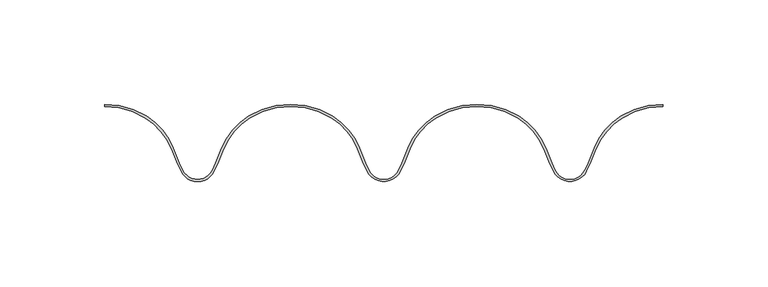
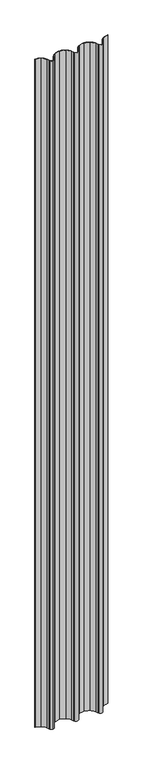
"""IFC4 building model written with IfcOpenShell, lengths in millimetres: plate geometry, Regolare Couverture 267  : Regolare Couverture 267 ."""

from ifc_helpers import new_model, si_unit, point, frame_2d, origin, origin_with_axes, place, context, project, spatial, polyline, circle_curve, trimmed, segment, composite_curve, outline, extrude, source, transform, mapped, element, save


def plate_7b1e3833(model_context):
    return source(origin(), model_context, "Body", "SweptSolid", [
        extrude(outline(composite_curve([segment(trimmed(circle_curve(frame_2d((-133.5772336, -1.5098563)), 37.4503244), [point((-114.0364835, 30.4383187))], [point((-133.5772336, 35.9404682))], True, "CARTESIAN"), True, "CONTINUOUS"), segment(polyline([(-133.5772336, 35.9404682), (-133.5772336, 36.9404682)]), True, "CONTINUOUS"), segment(trimmed(circle_curve(frame_2d((-133.5772336, -1.5098563)), 38.4503244), [point((-133.5772336, 36.9404682))], [point((-113.5147056, 31.2914001))], False, "CARTESIAN"), True, "CONTINUOUS"), segment(trimmed(circle_curve(frame_2d((-130.0115884, 4.3198001)), 31.6166783), [point((-113.5147056, 31.2914001))], [point((-100.6561042, 16.0616012))], False, "CARTESIAN"), True, "CONTINUOUS"), segment(polyline([(-100.6561042, 16.0616012), (-97.7868824, 8.8980757), (-96.1405287, 5.4633665)]), True, "CONTINUOUS"), segment(trimmed(circle_curve(frame_2d((-89.0514891, 8.8613445)), 7.8613445), [point((-96.1405287, 5.4633665))], [point((-89.0514891, 1.0))], True, "CARTESIAN"), True, "CONTINUOUS"), segment(trimmed(circle_curve(frame_2d((-89.0514891, 8.8613445)), 7.8613445), [point((-89.0514891, 1.0))], [point((-81.9624494, 5.4633665))], True, "CARTESIAN"), True, "CONTINUOUS"), segment(polyline([(-81.9624494, 5.4633665), (-80.3160957, 8.8980757), (-77.446874, 16.0616012)]), True, "CONTINUOUS"), segment(trimmed(circle_curve(frame_2d((-48.0913898, 4.3198001)), 31.6166783), [point((-77.446874, 16.0616012))], [point((-64.5882725, 31.2914001))], False, "CARTESIAN"), True, "CONTINUOUS"), segment(trimmed(circle_curve(frame_2d((-44.5257445, -1.5098563)), 38.4503244), [point((-64.5882725, 31.2914001))], [point((-44.5257445, 36.9404682))], False, "CARTESIAN"), True, "CONTINUOUS"), segment(trimmed(circle_curve(frame_2d((-44.5257445, -1.5098563)), 38.4503244), [point((-44.5257445, 36.9404682))], [point((-24.4632165, 31.2914001))], False, "CARTESIAN"), True, "CONTINUOUS"), segment(trimmed(circle_curve(frame_2d((-40.9600993, 4.3198001)), 31.6166783), [point((-24.4632165, 31.2914001))], [point((-11.6046151, 16.0616012))], False, "CARTESIAN"), True, "CONTINUOUS"), segment(polyline([(-11.6046151, 16.0616012), (-8.7353934, 8.8980757), (-7.0890396, 5.4633665)]), True, "CONTINUOUS"), segment(trimmed(circle_curve(frame_2d((0.0, 8.8613445)), 7.8613445), [point((-7.0890396, 5.4633665))], [point((7.0890396, 5.4633665))], True, "CARTESIAN"), True, "CONTINUOUS"), segment(polyline([(7.0890396, 5.4633665), (8.7353934, 8.8980757), (11.6046151, 16.0616012)]), True, "CONTINUOUS"), segment(trimmed(circle_curve(frame_2d((40.9600993, 4.3198001)), 31.6166783), [point((11.6046151, 16.0616012))], [point((24.4632165, 31.2914001))], False, "CARTESIAN"), True, "CONTINUOUS"), segment(trimmed(circle_curve(frame_2d((44.5257445, -1.5098563)), 38.4503244), [point((24.4632165, 31.2914001))], [point((44.5257445, 36.9404682))], False, "CARTESIAN"), True, "CONTINUOUS"), segment(trimmed(circle_curve(frame_2d((44.5257445, -1.5098563)), 38.4503244), [point((44.5257445, 36.9404682))], [point((64.5882725, 31.2914001))], False, "CARTESIAN"), True, "CONTINUOUS"), segment(trimmed(circle_curve(frame_2d((48.0913898, 4.3198001)), 31.6166783), [point((64.5882725, 31.2914001))], [point((77.446874, 16.0616012))], False, "CARTESIAN"), True, "CONTINUOUS"), segment(polyline([(77.446874, 16.0616012), (80.3160957, 8.8980757), (81.9624494, 5.4633665)]), True, "CONTINUOUS"), segment(trimmed(circle_curve(frame_2d((89.0514891, 8.8613445)), 7.8613445), [point((81.9624494, 5.4633665))], [point((96.1405287, 5.4633665))], True, "CARTESIAN"), True, "CONTINUOUS"), segment(polyline([(96.1405287, 5.4633665), (97.7868824, 8.8980757), (100.6561042, 16.0616012)]), True, "CONTINUOUS"), segment(trimmed(circle_curve(frame_2d((130.0115884, 4.3198001)), 31.6166783), [point((100.6561042, 16.0616012))], [point((113.5147056, 31.2914001))], False, "CARTESIAN"), True, "CONTINUOUS"), segment(trimmed(circle_curve(frame_2d((133.5772336, -1.5098563)), 38.4503244), [point((113.5147056, 31.2914001))], [point((133.5772336, 36.9404682))], False, "CARTESIAN"), True, "CONTINUOUS"), segment(polyline([(133.5772336, 36.9404682), (133.5772336, 35.9404682)]), True, "CONTINUOUS"), segment(trimmed(circle_curve(frame_2d((133.5772336, -1.5098563)), 37.4503244), [point((133.5772336, 35.9404682))], [point((114.0364835, 30.4383187))], True, "CARTESIAN"), True, "CONTINUOUS"), segment(trimmed(circle_curve(frame_2d((130.0115884, 4.3198001)), 30.6166783), [point((114.0364835, 30.4383187))], [point((101.5844985, 15.6900047))], True, "CARTESIAN"), True, "CONTINUOUS"), segment(polyline([(101.5844985, 15.6900047), (98.7029126, 8.4956098), (97.0422879, 5.0311277)]), True, "CONTINUOUS"), segment(trimmed(circle_curve(frame_2d((89.0514891, 8.8613445)), 8.8613445), [point((97.0422879, 5.0311277))], [point((81.0606903, 5.0311277))], False, "CARTESIAN"), True, "CONTINUOUS"), segment(polyline([(81.0606903, 5.0311277), (79.4000655, 8.4956098), (76.5184796, 15.6900047)]), True, "CONTINUOUS"), segment(trimmed(circle_curve(frame_2d((48.0913898, 4.3198001)), 30.6166783), [point((76.5184796, 15.6900047))], [point((64.0664947, 30.4383187))], True, "CARTESIAN"), True, "CONTINUOUS"), segment(trimmed(circle_curve(frame_2d((44.5257445, -1.5098563)), 37.4503244), [point((64.0664947, 30.4383187))], [point((44.5257445, 35.9404682))], True, "CARTESIAN"), True, "CONTINUOUS"), segment(trimmed(circle_curve(frame_2d((44.5257445, -1.5098563)), 37.4503244), [point((44.5257445, 35.9404682))], [point((24.9849944, 30.4383187))], True, "CARTESIAN"), True, "CONTINUOUS"), segment(trimmed(circle_curve(frame_2d((40.9600993, 4.3198001)), 30.6166783), [point((24.9849944, 30.4383187))], [point((12.5330095, 15.6900047))], True, "CARTESIAN"), True, "CONTINUOUS"), segment(polyline([(12.5330095, 15.6900047), (9.6514235, 8.4956098), (7.9907988, 5.0311277)]), True, "CONTINUOUS"), segment(trimmed(circle_curve(frame_2d((0.0, 8.8613445)), 8.8613445), [point((7.9907988, 5.0311277))], [point((-7.9907988, 5.0311277))], False, "CARTESIAN"), True, "CONTINUOUS"), segment(polyline([(-7.9907988, 5.0311277), (-9.6514235, 8.4956098), (-12.5330095, 15.6900047)]), True, "CONTINUOUS"), segment(trimmed(circle_curve(frame_2d((-40.9600993, 4.3198001)), 30.6166783), [point((-12.5330095, 15.6900047))], [point((-24.9849944, 30.4383187))], True, "CARTESIAN"), True, "CONTINUOUS"), segment(trimmed(circle_curve(frame_2d((-44.5257445, -1.5098563)), 37.4503244), [point((-24.9849944, 30.4383187))], [point((-44.5257445, 35.9404682))], True, "CARTESIAN"), True, "CONTINUOUS"), segment(trimmed(circle_curve(frame_2d((-44.5257445, -1.5098563)), 37.4503244), [point((-44.5257445, 35.9404682))], [point((-64.0664947, 30.4383187))], True, "CARTESIAN"), True, "CONTINUOUS"), segment(trimmed(circle_curve(frame_2d((-48.0913898, 4.3198001)), 30.6166783), [point((-64.0664947, 30.4383187))], [point((-76.5184796, 15.6900047))], True, "CARTESIAN"), True, "CONTINUOUS"), segment(polyline([(-76.5184796, 15.6900047), (-79.4000655, 8.4956098), (-81.0606903, 5.0311277)]), True, "CONTINUOUS"), segment(trimmed(circle_curve(frame_2d((-89.0514891, 8.8613445)), 8.8613445), [point((-81.0606903, 5.0311277))], [point((-89.0514891, 0.0))], False, "CARTESIAN"), True, "CONTINUOUS"), segment(trimmed(circle_curve(frame_2d((-89.0514891, 8.8613445)), 8.8613445), [point((-89.0514891, 0.0))], [point((-97.0422879, 5.0311277))], False, "CARTESIAN"), True, "CONTINUOUS"), segment(polyline([(-97.0422879, 5.0311277), (-98.7029126, 8.4956098), (-101.5844985, 15.6900047)]), True, "CONTINUOUS"), segment(trimmed(circle_curve(frame_2d((-130.0115884, 4.3198001)), 30.6166783), [point((-101.5844985, 15.6900047))], [point((-114.0364835, 30.4383187))], True, "CARTESIAN"), True, "CONTINUOUS")], self_intersect=False)), origin_with_axes(), (0.0, 0.0, 1.0), 2588.190451),
    ])


if __name__ == "__main__":
    model = new_model("IFC4")
    model_context = context("Model", 3, world=origin())
    ifc_project = project(units=[si_unit("LENGTHUNIT", "METRE", prefix="MILLI")], contexts=[model_context])
    site = spatial("IfcSite", under=ifc_project)
    building = spatial("IfcBuilding", under=site)
    placement = place(None, origin())
    plate_shape = plate_7b1e3833(model_context)
    element("IfcPlate", 1, ObjectType="Regolare Couverture 267  : Regolare Couverture 267 ", at=placement, inside=building, context=model_context, shape_type="MappedRepresentation", body=[
        mapped(plate_shape, transform((0.0, 0.0, 0.0), x_axis=(1.0, 0.0, 0.0), y_axis=(0.0, 1.0, 0.0), z_axis=(0.0, 0.0, 1.0))),
    ])
    save(model, "model.ifc")
